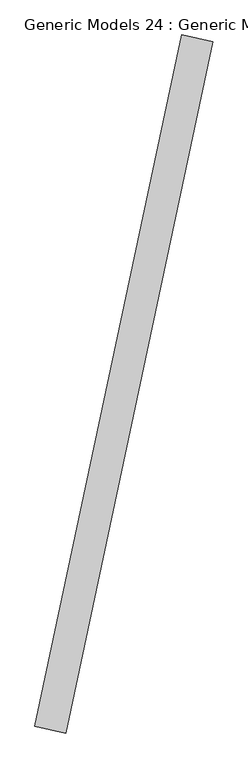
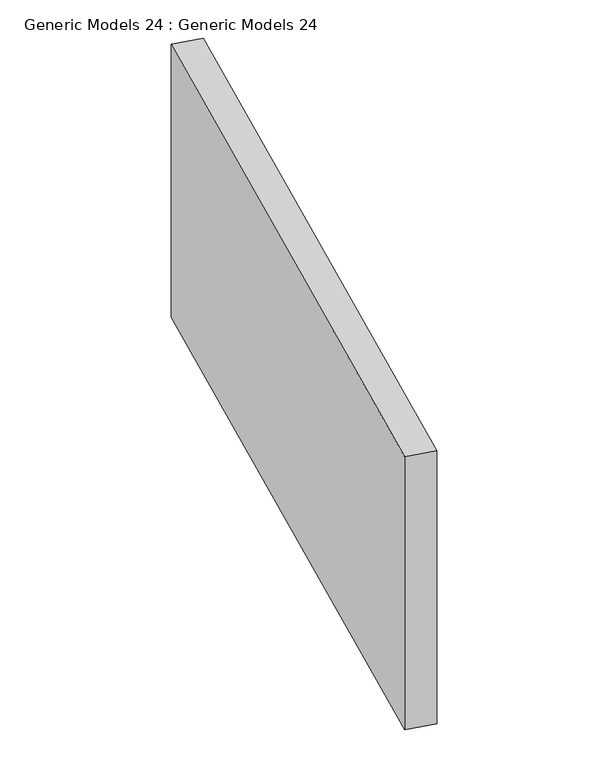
"""IFC4 building model written with IfcOpenShell, lengths in millimetres: proxy geometry, Generic Models 24 : Generic Models 24."""

from ifc_helpers import new_model, si_unit, frame, origin, place, context, project, spatial, polyline, outline, extrude, source, transform, mapped, element, save


def generic_models_24_generic_models_24_6f69fc4d(model_context):
    return source(origin(), model_context, "Body", "SweptSolid", [
        extrude(outline(polyline([(485992.5646726, 1698.5377107), (486370.2788075, 3475.5430024), (486449.9905894, 3458.5997401), (486072.2764545, 1681.5944484), (485992.5646726, 1698.5377107)])), frame((0.0, 0.0, 1200.0), z_axis=(0.0, 0.0, 1.0), x_axis=(1.0, 0.0, 0.0)), (0.0, 0.0, 1.0), 800.0),
    ])


if __name__ == "__main__":
    model = new_model("IFC4")
    model_context = context("Model", 3, world=origin())
    ifc_project = project(units=[si_unit("LENGTHUNIT", "METRE", prefix="MILLI")], contexts=[model_context])
    site = spatial("IfcSite", under=ifc_project)
    building = spatial("IfcBuilding", under=site)
    placement = place(None, origin())
    generic_models_24_generic_models_24_shape = generic_models_24_generic_models_24_6f69fc4d(model_context)
    element("IfcBuildingElementProxy", 1, Name="Generic Models 24 : Generic Models 24", ObjectType="Generic Models 24 : Generic Models 24", at=placement, inside=building, context=model_context, shape_type="MappedRepresentation", body=[
        mapped(generic_models_24_generic_models_24_shape, transform((0.0, 0.0, 0.0), x_axis=(1.0, 0.0, 0.0), y_axis=(0.0, 1.0, 0.0), z_axis=(0.0, 0.0, 1.0))),
    ])
    save(model, "model.ifc")
